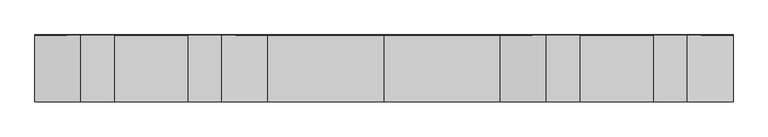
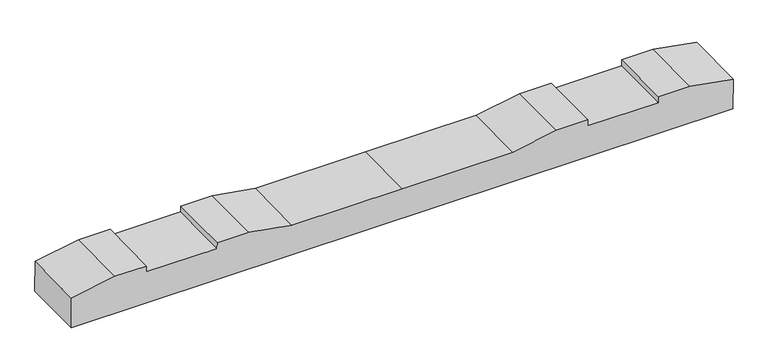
"""IFC4 building model written with IfcOpenShell, lengths in millimetres: proxy geometry, 轨枕-立面角度 : 轨枕-立面角度."""

from ifc_helpers import new_model, si_unit, frame, origin, place, context, project, spatial, polyline, outline, extrude, source, transform, mapped, element, save


def generic_models_f02bd38a(model_context):
    return source(origin(), model_context, "Body", "SweptSolid", [
        extrude(outline(polyline([(0.0, 0.0), (2099.7669328, 0.0), (2099.7669328, -100.0206889), (1961.8834664, -124.5), (1861.8834664, -124.5), (1861.8834664, -104.4999999), (1637.8834664, -104.4999999), (1637.8834664, -124.5), (1537.8834664, -124.5), (1399.8834664, -99.9999999), (1049.8834664, -99.9999999), (699.8834664, -99.9999999), (561.8834664, -124.5), (461.8834664, -124.5), (461.8834664, -104.4999999), (237.8834664, -104.4999999), (237.8834664, -124.5), (137.8834664, -124.5), (0.0, -100.0206889), (0.0, 0.0)])), frame((-1049.8834664, -99.0782934, -105.3742937), z_axis=(0.0, 0.9999614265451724, 0.00878324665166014), x_axis=(1.0, 0.0, 0.0)), (0.0, 0.0, 1.0), 200.0),
    ])


if __name__ == "__main__":
    model = new_model("IFC4")
    model_context = context("Model", 3, world=origin())
    ifc_project = project(units=[si_unit("LENGTHUNIT", "METRE", prefix="MILLI")], contexts=[model_context])
    site = spatial("IfcSite", under=ifc_project)
    building = spatial("IfcBuilding", under=site)
    placement = place(None, origin())
    generic_models_shape = generic_models_f02bd38a(model_context)
    element("IfcBuildingElementProxy", 1, Name="轨枕-立面角度 : 轨枕-立面角度", ObjectType="轨枕-立面角度 : 轨枕-立面角度", at=placement, inside=building, context=model_context, shape_type="MappedRepresentation", body=[
        mapped(generic_models_shape, transform((0.0, 0.0, 0.0), x_axis=(1.0, 0.0, 0.0), y_axis=(0.0, 1.0, 0.0), z_axis=(0.0, 0.0, 1.0))),
    ])
    save(model, "model.ifc")
